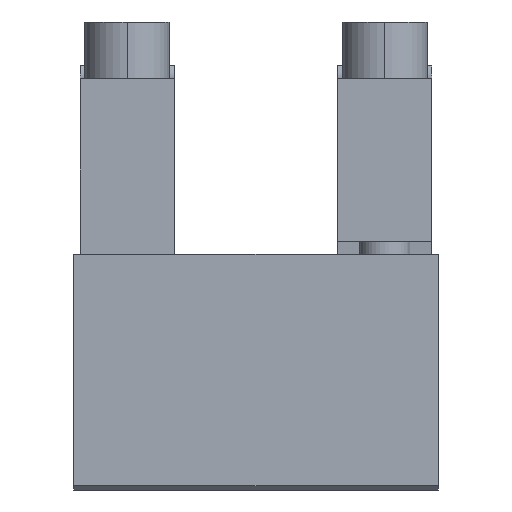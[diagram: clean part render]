
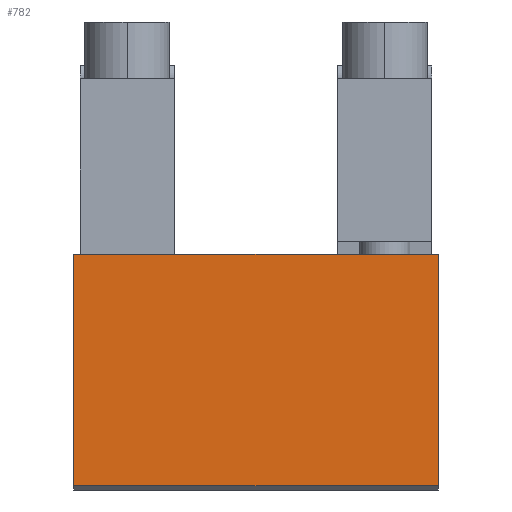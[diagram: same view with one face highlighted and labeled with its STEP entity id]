
A CAD part, front view. The second image highlights one B-rep face of the part: STEP entity #782.
In plain terms, the highlighted planar face has unit normal (0, -1, 0).
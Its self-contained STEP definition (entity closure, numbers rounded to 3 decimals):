
#782=ADVANCED_FACE('Pad.1',(#1877),#1878,.T.);
#1877=FACE_OUTER_BOUND('',#3305,.T.);
#1878=PLANE('',#3306);
#3305=EDGE_LOOP('',(#5388,#5389,#5390,#5391));
#3306=AXIS2_PLACEMENT_3D('',#5392,#5393,#5394);
#5388=ORIENTED_EDGE('',*,*,#8764,.F.);
#5389=ORIENTED_EDGE('',*,*,#8747,.F.);
#5390=ORIENTED_EDGE('',*,*,#8810,.T.);
#5391=ORIENTED_EDGE('',*,*,#8758,.T.);
#5392=CARTESIAN_POINT('',(29.0,-34.0,-37.5));
#5393=DIRECTION('',(0.0,-1.0,0.0));
#5394=DIRECTION('',(0.0,0.0,1.0));
#8747=EDGE_CURVE('',#10547,#10549,#10550,.F.);
#8758=EDGE_CURVE('',#10565,#10563,#10566,.F.);
#8764=EDGE_CURVE('',#10549,#10563,#10575,.F.);
#8810=EDGE_CURVE('',#10547,#10565,#10640,.T.);
#10547=VERTEX_POINT('',#13781);
#10549=VERTEX_POINT('',#13784);
#10550=LINE('',#13785,#13786);
#10563=VERTEX_POINT('',#13802);
#10565=VERTEX_POINT('',#13805);
#10566=LINE('',#13806,#13807);
#10575=LINE('',#13819,#13820);
#10640=LINE('',#14618,#14619);
#13781=CARTESIAN_POINT('',(29.0,-34.0,0.0));
#13784=CARTESIAN_POINT('',(29.0,-34.0,-36.8));
#13785=CARTESIAN_POINT('',(29.0,-34.0,-18.4));
#13786=VECTOR('',#17369,1.0);
#13802=CARTESIAN_POINT('',(-29.0,-34.0,-36.8));
#13805=CARTESIAN_POINT('',(-29.0,-34.0,0.0));
#13806=CARTESIAN_POINT('',(-29.0,-34.0,-18.4));
#13807=VECTOR('',#17386,1.0);
#13819=CARTESIAN_POINT('',(0.0,-34.0,-36.8));
#13820=VECTOR('',#17393,1.0);
#14618=CARTESIAN_POINT('',(0.0,-34.0,0.0));
#14619=VECTOR('',#17397,1.0);
#17369=DIRECTION('',(0.0,0.0,1.0));
#17386=DIRECTION('',(0.0,0.0,1.0));
#17393=DIRECTION('',(1.0,0.0,0.0));
#17397=DIRECTION('',(-1.0,0.0,0.0));
